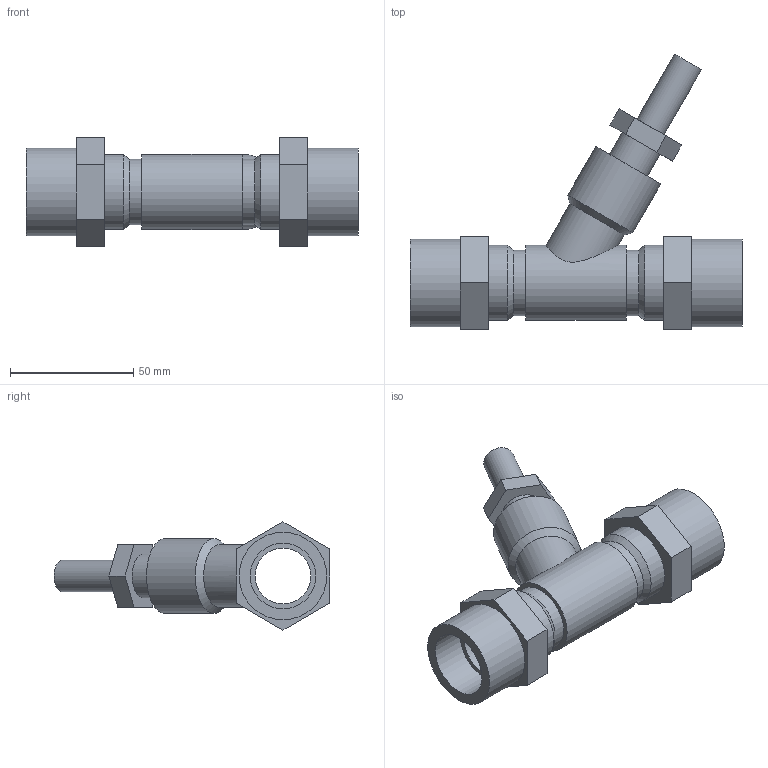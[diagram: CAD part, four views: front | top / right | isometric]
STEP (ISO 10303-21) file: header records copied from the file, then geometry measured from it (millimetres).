
FILE_DESCRIPTION(/* description */ ('VIC DIFFERENTIAL PRESSURE RELIEF VALVE SERIES 782 (CUP)','CAx-IF Rec.Pracs.---Representation and Presentation of Product Manufacturing Information (PMI)---4.0---2014-10-13'),/* implementation_level */ '2;1');
FILE_NAME(/* name */ 'C:\Users\kkamble\Desktop\New folder (12)\New folder\step\Victaulic_IPS_Valve Differential Pressure Relief_TA Series 782 (CUP)\Victaulic_IPS_Valve Differential Pressure Relief_TA Series 782 (CUP)_0.75 (20).stp',/* time_stamp */ '2020-10-13T18:45:22+05:00',/* author */ ('kkamble'),/* organization */ ('Victaulic'),/* preprocessor_version */ 'ST-DEVELOPER v17.2',/* originating_system */ 'Autodesk Inventor 2019',/* authorisation */ '');
FILE_SCHEMA (('AP242_MANAGED_MODEL_BASED_3D_ENGINEERING_MIM_LF { 1 0 10303 442 1 1 4 }'));
Length unit declared in the file: inch
Products named in the file (1): 782-0.75
Bounding box: 134.87 x 112.01 x 43.99 mm (x, y, z)
Volume: 96364.4 mm3; surface area: 34335.1 mm2
Topology: 1 solids, 1 shells, 49 faces, 121 edges, 86 vertices
Faces by surface type: plane 32, cylinder 14, cone 3
Full cylindrical faces by diameter (mm): 12.7 x1, 17.78 x1, 22.606 x1, 25.4 x1, 26.67 x4, 30.48 x4, 35.56 x2
Entity records: 1730 total; most frequent: CARTESIAN_POINT 332, DIRECTION 293, ORIENTED_EDGE 242, EDGE_CURVE 121, AXIS2_PLACEMENT_3D 111, VERTEX_POINT 86, LINE 71, VECTOR 71
